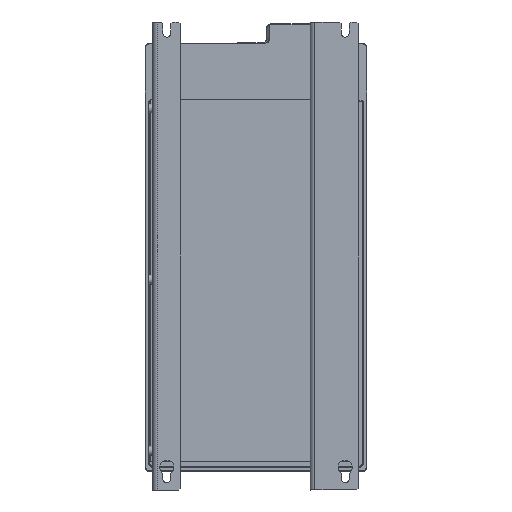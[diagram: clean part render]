
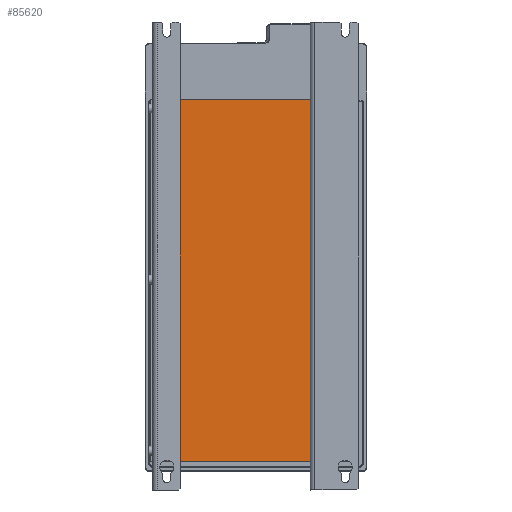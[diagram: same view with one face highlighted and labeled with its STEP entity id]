
A CAD part, front view. The second image highlights one B-rep face of the part: STEP entity #85620.
In plain terms, the highlighted planar face has unit normal (0, -1, 0).
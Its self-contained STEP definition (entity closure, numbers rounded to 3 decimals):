
#3266 = EDGE_CURVE ( 'NONE', #18773, #21371, #66904, .T. ) ;
#6056 = EDGE_LOOP ( 'NONE', ( #57784, #90668, #65706, #34898 ) ) ;
#7455 = CARTESIAN_POINT ( 'NONE',  ( -87.5, -15.5, 231.5 ) ) ;
#9241 = DIRECTION ( 'NONE',  ( 1., 0., 0. ) ) ;
#9425 = CARTESIAN_POINT ( 'NONE',  ( 87.5, -15.5, -192. ) ) ;
#14516 = EDGE_CURVE ( 'NONE', #21371, #47930, #89574, .T. ) ;
#16820 = CARTESIAN_POINT ( 'NONE',  ( -91.5, -15.5, -173.5 ) ) ;
#18773 = VERTEX_POINT ( 'NONE', #7455 ) ;
#19702 = CARTESIAN_POINT ( 'NONE',  ( -91.5, -15.5, 231.5 ) ) ;
#21371 = VERTEX_POINT ( 'NONE', #47143 ) ;
#25704 = LINE ( 'NONE', #16820, #26168 ) ;
#25886 = EDGE_CURVE ( 'NONE', #57943, #18773, #87917, .T. ) ;
#26168 = VECTOR ( 'NONE', #89113, 1000. ) ;
#27029 = VECTOR ( 'NONE', #72379, 1000. ) ;
#33374 = PLANE ( 'NONE',  #50242 ) ;
#33894 = FACE_OUTER_BOUND ( 'NONE', #6056, .T. ) ;
#34898 = ORIENTED_EDGE ( 'NONE', *, *, #3266, .F. ) ;
#47143 = CARTESIAN_POINT ( 'NONE',  ( 87.5, -15.5, 231.5 ) ) ;
#47930 = VERTEX_POINT ( 'NONE', #48218 ) ;
#47985 = CARTESIAN_POINT ( 'NONE',  ( -87.5, -15.5, -173.5 ) ) ;
#48218 = CARTESIAN_POINT ( 'NONE',  ( 87.5, -15.5, -173.5 ) ) ;
#50242 = AXIS2_PLACEMENT_3D ( 'NONE', #65884, #58536, #97784 ) ;
#57784 = ORIENTED_EDGE ( 'NONE', *, *, #25886, .F. ) ;
#57943 = VERTEX_POINT ( 'NONE', #47985 ) ;
#58536 = DIRECTION ( 'NONE',  ( 0., 1., 0. ) ) ;
#60087 = VECTOR ( 'NONE', #9241, 1000. ) ;
#65706 = ORIENTED_EDGE ( 'NONE', *, *, #14516, .F. ) ;
#65884 = CARTESIAN_POINT ( 'NONE',  ( -91.5, -15.5, 231.5 ) ) ;
#66904 = LINE ( 'NONE', #19702, #60087 ) ;
#72379 = DIRECTION ( 'NONE',  ( 0., 0., -1. ) ) ;
#79575 = CARTESIAN_POINT ( 'NONE',  ( -87.5, -15.5, 230.3 ) ) ;
#79656 = EDGE_CURVE ( 'NONE', #57943, #47930, #25704, .T. ) ;
#85620 = ADVANCED_FACE ( 'NONE', ( #33894 ), #33374, .F. ) ;
#87917 = LINE ( 'NONE', #79575, #94948 ) ;
#89113 = DIRECTION ( 'NONE',  ( 1., 0., 0. ) ) ;
#89574 = LINE ( 'NONE', #9425, #27029 ) ;
#90668 = ORIENTED_EDGE ( 'NONE', *, *, #79656, .T. ) ;
#94948 = VECTOR ( 'NONE', #103064, 1000. ) ;
#97784 = DIRECTION ( 'NONE',  ( 0., 0., 1. ) ) ;
#103064 = DIRECTION ( 'NONE',  ( 0., 0., 1. ) ) ;
